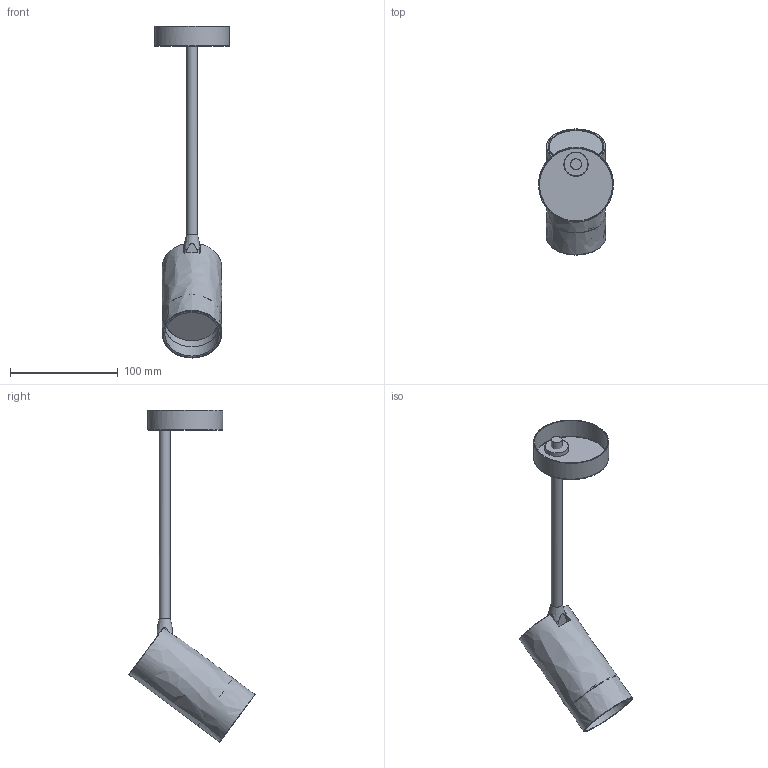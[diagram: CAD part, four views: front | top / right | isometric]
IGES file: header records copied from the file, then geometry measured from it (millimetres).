
Start section: SolidWorks IGES file using NURBS representation for surfaces
Global section: file name: Z:\Modele 3D_WWW\_KOLEKCJE_WWW\MONO\MONO-BELKA-LONG\7670\MONO-LONG-I-S-GOLD-7670.IGS; native system: SolidWorks 2021; preprocessor: SolidWorks 2021; author: gabriela.tworek; date: 220121.094914; units: millimetre
Bounding box: 69.6 x 117.09 x 308.37 mm (x, y, z)
Surface area: 76165 mm2 (no closed solid volume)
Topology: 0 solids, 0 shells, 57 faces, 334 edges, 317 vertices
Faces by surface type: bspline 57
